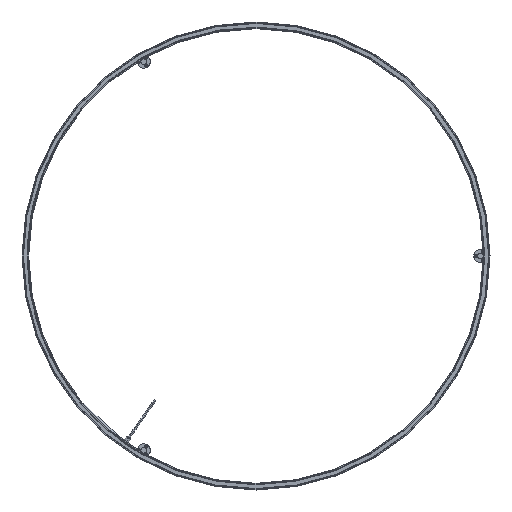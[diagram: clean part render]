
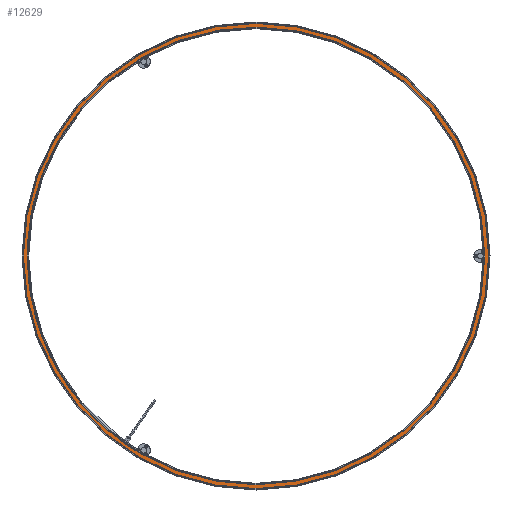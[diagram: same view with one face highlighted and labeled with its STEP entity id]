
A CAD part, front view. The second image highlights one B-rep face of the part: STEP entity #12629.
In plain terms, the highlighted planar face has unit normal (0, -1, 0) as drawn and (0, 1, 0) by its records, which use the part's own axes.
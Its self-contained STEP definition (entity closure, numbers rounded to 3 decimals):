
#71 = VERTEX_POINT ( 'NONE', #8046 ) ;
#1239 = DIRECTION ( 'NONE',  ( 0., -1., 0. ) ) ;
#1282 = CIRCLE ( 'NONE', #11313, 795.6 ) ;
#1323 = DIRECTION ( 'NONE',  ( 0., 0., -1. ) ) ;
#1331 = ORIENTED_EDGE ( 'NONE', *, *, #3864, .F. ) ;
#1402 = DIRECTION ( 'NONE',  ( 0., -1., 0. ) ) ;
#2008 = ORIENTED_EDGE ( 'NONE', *, *, #13421, .T. ) ;
#2131 = AXIS2_PLACEMENT_3D ( 'NONE', #5993, #1239, #8586 ) ;
#2297 = FACE_BOUND ( 'NONE', #9288, .T. ) ;
#2452 = DIRECTION ( 'NONE',  ( 0., -1., 0. ) ) ;
#2525 = CARTESIAN_POINT ( 'NONE',  ( 0., -6.5, 0. ) ) ;
#3109 = DIRECTION ( 'NONE',  ( 0., 0., -1. ) ) ;
#3740 = FACE_OUTER_BOUND ( 'NONE', #13628, .T. ) ;
#3864 = EDGE_CURVE ( 'NONE', #12849, #71, #12083, .T. ) ;
#4245 = CARTESIAN_POINT ( 'NONE',  ( 0., -6.5, 0. ) ) ;
#4321 = DIRECTION ( 'NONE',  ( 0., -1., 0. ) ) ;
#4854 = AXIS2_PLACEMENT_3D ( 'NONE', #10991, #13598, #6077 ) ;
#5097 = CARTESIAN_POINT ( 'NONE',  ( 0., -6.5, 0. ) ) ;
#5605 = EDGE_CURVE ( 'NONE', #71, #12849, #1282, .T. ) ;
#5993 = CARTESIAN_POINT ( 'NONE',  ( -781.4, -6.5, 0. ) ) ;
#6077 = DIRECTION ( 'NONE',  ( 0., 0., -1. ) ) ;
#6200 = ORIENTED_EDGE ( 'NONE', *, *, #12654, .T. ) ;
#8046 = CARTESIAN_POINT ( 'NONE',  ( 0., -6.5, -795.6 ) ) ;
#8586 = DIRECTION ( 'NONE',  ( 0., 0., -1. ) ) ;
#9288 = EDGE_LOOP ( 'NONE', ( #2008, #6200 ) ) ;
#9600 = AXIS2_PLACEMENT_3D ( 'NONE', #5097, #1402, #1323 ) ;
#10055 = CARTESIAN_POINT ( 'NONE',  ( 0., -6.5, 781.4 ) ) ;
#10354 = CIRCLE ( 'NONE', #12427, 781.4 ) ;
#10885 = CIRCLE ( 'NONE', #9600, 781.4 ) ;
#10991 = CARTESIAN_POINT ( 'NONE',  ( 0., -6.5, 0. ) ) ;
#11313 = AXIS2_PLACEMENT_3D ( 'NONE', #4245, #4321, #3109 ) ;
#12083 = CIRCLE ( 'NONE', #4854, 795.6 ) ;
#12371 = DIRECTION ( 'NONE',  ( 0., 0., -1. ) ) ;
#12427 = AXIS2_PLACEMENT_3D ( 'NONE', #2525, #2452, #12371 ) ;
#12629 = ADVANCED_FACE ( 'NONE', ( #3740, #2297 ), #14721, .F. ) ;
#12654 = EDGE_CURVE ( 'NONE', #14168, #14493, #10354, .T. ) ;
#12849 = VERTEX_POINT ( 'NONE', #14745 ) ;
#13166 = ORIENTED_EDGE ( 'NONE', *, *, #5605, .F. ) ;
#13421 = EDGE_CURVE ( 'NONE', #14493, #14168, #10885, .T. ) ;
#13598 = DIRECTION ( 'NONE',  ( 0., -1., 0. ) ) ;
#13628 = EDGE_LOOP ( 'NONE', ( #13166, #1331 ) ) ;
#14168 = VERTEX_POINT ( 'NONE', #10055 ) ;
#14493 = VERTEX_POINT ( 'NONE', #15485 ) ;
#14721 = PLANE ( 'NONE',  #2131 ) ;
#14745 = CARTESIAN_POINT ( 'NONE',  ( 0., -6.5, 795.6 ) ) ;
#15485 = CARTESIAN_POINT ( 'NONE',  ( 0., -6.5, -781.4 ) ) ;
